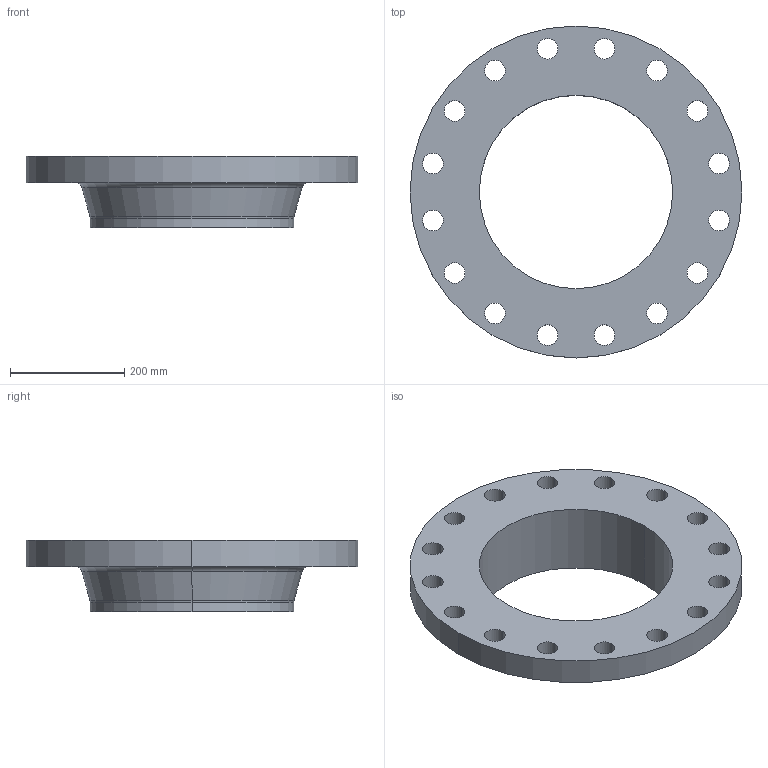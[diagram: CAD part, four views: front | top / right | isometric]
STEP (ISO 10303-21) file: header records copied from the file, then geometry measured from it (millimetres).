
FILE_DESCRIPTION (( 'STEP AP214' ), '1' );
FILE_NAME ('PN40 DN350 Type 11 - Type A Face.STEP', '2019-01-05T21:54:43', ( '' ), ( '' ), 'SwSTEP 2.0', 'SolidWorks 2019', '' );
FILE_SCHEMA (( 'AUTOMOTIVE_DESIGN' ));
Length unit declared in the file: millimetre
Products named in the file (1): PN40 DN350 Type 11 - Type A Face
Bounding box: 580 x 580 x 125 mm (x, y, z)
Volume: 8651998.5 mm3; surface area: 687240 mm2
Topology: 1 solids, 1 shells, 47 faces, 126 edges, 82 vertices
Faces by surface type: cylinder 38, torus 4, plane 3, cone 2
Entity records: 1620 total; most frequent: DIRECTION 308, CARTESIAN_POINT 256, ORIENTED_EDGE 252, AXIS2_PLACEMENT_3D 134, EDGE_CURVE 126, CIRCLE 86, EDGE_LOOP 82, VERTEX_POINT 82
